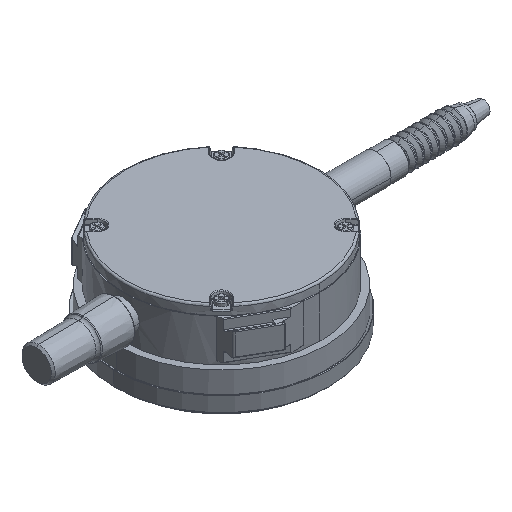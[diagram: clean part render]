
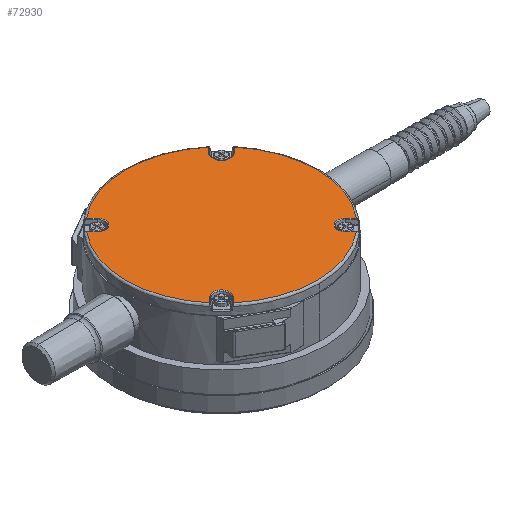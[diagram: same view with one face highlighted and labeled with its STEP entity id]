
A CAD part, isometric view. The second image highlights one B-rep face of the part: STEP entity #72930.
In plain terms, the highlighted planar face has unit normal (0, 0, 1).
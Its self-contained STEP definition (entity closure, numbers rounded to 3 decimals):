
#27990=CARTESIAN_POINT('',(19.488,-16.134,2.1));
#28000=VERTEX_POINT('',#27990);
#43330=CARTESIAN_POINT('',(14.869,17.94,2.1));
#43340=VERTEX_POINT('',#43330);
#43370=CARTESIAN_POINT('',(0.,3.071,2.1));
#43380=DIRECTION('',(0.707,0.707,0.));
#43390=VECTOR('',#43380,1.);
#43400=LINE('',#43370,#43390);
#43410=CARTESIAN_POINT('',(16.288,19.359,2.1));
#43420=VERTEX_POINT('',#43410);
#43430=EDGE_CURVE('',#43340,#43420,#43400,.T.);
#49650=CARTESIAN_POINT('',(0.,0.,2.1));
#49660=DIRECTION('',(0.,0.,-1.));
#49670=DIRECTION('',(-1.,0.,0.));
#49680=AXIS2_PLACEMENT_3D('',#49650,#49660,#49670);
#49690=CIRCLE('',#49680,25.3);
#49700=CARTESIAN_POINT('',(19.359,16.288,2.1));
#49710=VERTEX_POINT('',#49700);
#49720=EDGE_CURVE('',#49710,#28000,#49690,.T.);
#51170=CARTESIAN_POINT('',(16.134,-19.488,2.1));
#51180=VERTEX_POINT('',#51170);
#51580=CARTESIAN_POINT('',(14.728,-18.082,2.1));
#51590=VERTEX_POINT('',#51580);
#51690=CARTESIAN_POINT('',(0.,-3.354,2.1));
#51700=DIRECTION('',(-0.707,0.707,0.));
#51710=VECTOR('',#51700,1.);
#51720=LINE('',#51690,#51710);
#51730=EDGE_CURVE('',#51180,#51590,#51720,.T.);
#52940=CARTESIAN_POINT('',(-16.288,19.359,2.1));
#52950=VERTEX_POINT('',#52940);
#60130=CARTESIAN_POINT('',(17.94,14.869,2.1));
#60140=VERTEX_POINT('',#60130);
#60170=CARTESIAN_POINT('',(16.405,16.405,2.1));
#60180=DIRECTION('',(0.,0.,1.));
#60190=DIRECTION('',(-1.,0.,0.));
#60200=AXIS2_PLACEMENT_3D('',#60170,#60180,#60190);
#60210=CIRCLE('',#60200,2.172);
#60220=EDGE_CURVE('',#43340,#60140,#60210,.T.);
#70060=CARTESIAN_POINT('',(-19.359,16.288,2.1));
#70070=VERTEX_POINT('',#70060);
#71900=CARTESIAN_POINT('',(0.,0.,2.1));
#71910=DIRECTION('',(0.,0.,-1.));
#71920=DIRECTION('',(1.,0.,0.));
#71930=AXIS2_PLACEMENT_3D('',#71900,#71910,#71920);
#71940=PLANE('',#71930);
#71950=CARTESIAN_POINT('',(0.,0.,2.1));
#71960=DIRECTION('',(0.,0.,-1.));
#71970=DIRECTION('',(-1.,0.,0.));
#71980=AXIS2_PLACEMENT_3D('',#71950,#71960,#71970);
#71990=CIRCLE('',#71980,25.3);
#72000=CARTESIAN_POINT('',(-16.288,-19.359,2.1));
#72010=VERTEX_POINT('',#72000);
#72020=EDGE_CURVE('',#51180,#72010,#71990,.T.);
#72030=ORIENTED_EDGE('',*,*,#72020,.F.);
#72040=CARTESIAN_POINT('',(0.,-3.071,2.1));
#72050=DIRECTION('',(-0.707,-0.707,0.));
#72060=VECTOR('',#72050,1.);
#72070=LINE('',#72040,#72060);
#72080=CARTESIAN_POINT('',(-14.869,-17.94,2.1));
#72090=VERTEX_POINT('',#72080);
#72100=EDGE_CURVE('',#72090,#72010,#72070,.T.);
#72110=ORIENTED_EDGE('',*,*,#72100,.T.);
#72120=CARTESIAN_POINT('',(-16.405,-16.405,2.1));
#72130=DIRECTION('',(0.,0.,1.));
#72140=DIRECTION('',(-1.,0.,0.));
#72150=AXIS2_PLACEMENT_3D('',#72120,#72130,#72140);
#72160=CIRCLE('',#72150,2.172);
#72170=CARTESIAN_POINT('',(-17.94,-14.869,2.1));
#72180=VERTEX_POINT('',#72170);
#72190=EDGE_CURVE('',#72090,#72180,#72160,.T.);
#72200=ORIENTED_EDGE('',*,*,#72190,.F.);
#72210=CARTESIAN_POINT('',(-19.359,-16.288,2.1));
#72220=DIRECTION('',(0.707,0.707,0.));
#72230=VECTOR('',#72220,1.);
#72240=LINE('',#72210,#72230);
#72250=CARTESIAN_POINT('',(-19.359,-16.288,2.1));
#72260=VERTEX_POINT('',#72250);
#72270=EDGE_CURVE('',#72260,#72180,#72240,.T.);
#72280=ORIENTED_EDGE('',*,*,#72270,.T.);
#72290=CARTESIAN_POINT('',(0.,0.,2.1));
#72300=DIRECTION('',(0.,0.,-1.));
#72310=DIRECTION('',(-1.,0.,0.));
#72320=AXIS2_PLACEMENT_3D('',#72290,#72300,#72310);
#72330=CIRCLE('',#72320,25.3);
#72340=EDGE_CURVE('',#72260,#70070,#72330,.T.);
#72350=ORIENTED_EDGE('',*,*,#72340,.F.);
#72360=CARTESIAN_POINT('',(-17.94,14.869,2.1));
#72370=DIRECTION('',(-0.707,0.707,0.));
#72380=VECTOR('',#72370,1.);
#72390=LINE('',#72360,#72380);
#72400=CARTESIAN_POINT('',(-17.94,14.869,2.1));
#72410=VERTEX_POINT('',#72400);
#72420=EDGE_CURVE('',#72410,#70070,#72390,.T.);
#72430=ORIENTED_EDGE('',*,*,#72420,.T.);
#72440=CARTESIAN_POINT('',(-16.405,16.405,2.1));
#72450=DIRECTION('',(0.,0.,1.));
#72460=DIRECTION('',(-1.,0.,0.));
#72470=AXIS2_PLACEMENT_3D('',#72440,#72450,#72460);
#72480=CIRCLE('',#72470,2.172);
#72490=CARTESIAN_POINT('',(-14.869,17.94,2.1));
#72500=VERTEX_POINT('',#72490);
#72510=EDGE_CURVE('',#72410,#72500,#72480,.T.);
#72520=ORIENTED_EDGE('',*,*,#72510,.F.);
#72530=CARTESIAN_POINT('',(0.,3.071,2.1));
#72540=DIRECTION('',(0.707,-0.707,0.));
#72550=VECTOR('',#72540,1.);
#72560=LINE('',#72530,#72550);
#72570=EDGE_CURVE('',#52950,#72500,#72560,.T.);
#72580=ORIENTED_EDGE('',*,*,#72570,.T.);
#72590=CARTESIAN_POINT('',(0.,0.,2.1));
#72600=DIRECTION('',(0.,0.,-1.));
#72610=DIRECTION('',(-1.,0.,0.));
#72620=AXIS2_PLACEMENT_3D('',#72590,#72600,#72610);
#72630=CIRCLE('',#72620,25.3);
#72640=EDGE_CURVE('',#52950,#43420,#72630,.T.);
#72650=ORIENTED_EDGE('',*,*,#72640,.F.);
#72660=ORIENTED_EDGE('',*,*,#43430,.T.);
#72670=ORIENTED_EDGE('',*,*,#60220,.F.);
#72680=CARTESIAN_POINT('',(19.359,16.288,2.1));
#72690=DIRECTION('',(-0.707,-0.707,0.));
#72700=VECTOR('',#72690,1.);
#72710=LINE('',#72680,#72700);
#72720=EDGE_CURVE('',#49710,#60140,#72710,.T.);
#72730=ORIENTED_EDGE('',*,*,#72720,.T.);
#72740=ORIENTED_EDGE('',*,*,#49720,.F.);
#72750=CARTESIAN_POINT('',(18.082,-14.728,2.1));
#72760=DIRECTION('',(0.707,-0.707,0.));
#72770=VECTOR('',#72760,1.);
#72780=LINE('',#72750,#72770);
#72790=CARTESIAN_POINT('',(18.082,-14.728,2.1));
#72800=VERTEX_POINT('',#72790);
#72810=EDGE_CURVE('',#72800,#28000,#72780,.T.);
#72820=ORIENTED_EDGE('',*,*,#72810,.T.);
#72830=CARTESIAN_POINT('',(16.405,-16.405,2.1));
#72840=DIRECTION('',(0.,0.,1.));
#72850=DIRECTION('',(-1.,0.,0.));
#72860=AXIS2_PLACEMENT_3D('',#72830,#72840,#72850);
#72870=CIRCLE('',#72860,2.372);
#72880=EDGE_CURVE('',#72800,#51590,#72870,.T.);
#72890=ORIENTED_EDGE('',*,*,#72880,.F.);
#72900=ORIENTED_EDGE('',*,*,#51730,.T.);
#72910=EDGE_LOOP('',(#72900,#72890,#72820,#72740,#72730,#72670,#72660,
#72650,#72580,#72520,#72430,#72350,#72280,#72200,#72110,#72030));
#72920=FACE_OUTER_BOUND('',#72910,.T.);
#72930=ADVANCED_FACE('',(#72920),#71940,.F.);
